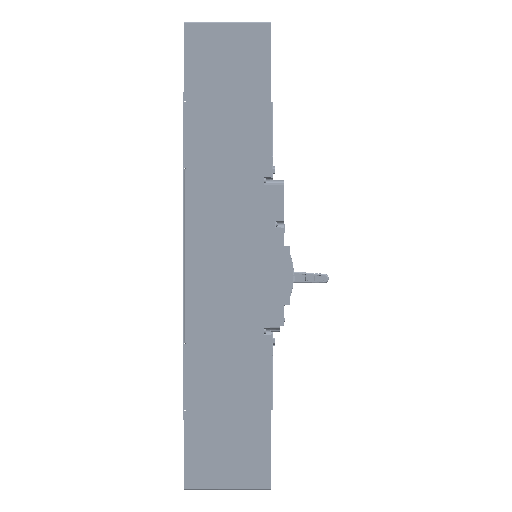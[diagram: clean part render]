
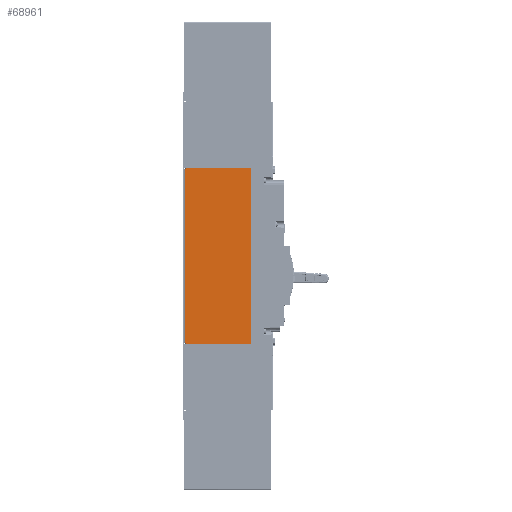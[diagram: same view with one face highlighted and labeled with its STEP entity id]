
A CAD part, left-side view. The second image highlights one B-rep face of the part: STEP entity #68961.
In plain terms, the highlighted planar face has unit normal (-1, 0, 0).
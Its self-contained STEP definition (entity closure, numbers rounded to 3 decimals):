
#2020=CARTESIAN_POINT('',(-70.,86.5,148.3));
#2022=DIRECTION('',(0.,0.,-1.));
#2023=VECTOR('',#2022,224.6);
#2024=CARTESIAN_POINT('',(-70.,86.5,148.3));
#2025=LINE('',#2024,#2023);
#2026=CARTESIAN_POINT('',(-70.,86.5,
-76.3));
#2103=DIRECTION('',(0.,0.,-1.));
#2104=VECTOR('',#2103,1.2);
#2105=CARTESIAN_POINT('',(-70.,85.,149.5));
#2106=LINE('',#2105,#2104);
#2133=DIRECTION('',(0.,1.,0.));
#2134=VECTOR('',#2133,85.);
#2135=CARTESIAN_POINT('',(-70.,0.,149.5));
#2136=LINE('',#2135,#2134);
#3552=DIRECTION('',(0.,-1.,0.));
#3553=VECTOR('',#3552,85.);
#3554=CARTESIAN_POINT('',(-70.,85.,-77.5));
#3555=LINE('',#3554,#3553);
#3579=CARTESIAN_POINT('',(-70.,85.,-76.3));
#3581=DIRECTION('',(0.,0.,-1.));
#3582=VECTOR('',#3581,1.2);
#3583=CARTESIAN_POINT('',(-70.,85.,-76.3));
#3584=LINE('',#3583,#3582);
#20356=DIRECTION('',(0.,-1.,0.));
#20357=VECTOR('',#20356,1.5);
#20358=CARTESIAN_POINT('',(-70.,86.5,
-76.3));
#20359=LINE('',#20358,#20357);
#20364=DIRECTION('',(0.,0.,-1.));
#20365=VECTOR('',#20364,227.);
#20366=CARTESIAN_POINT('',(-70.,0.,149.5));
#20367=LINE('',#20366,#20365);
#20372=DIRECTION('',(0.,1.,0.));
#20373=VECTOR('',#20372,1.5);
#20374=CARTESIAN_POINT('',(-70.,85.,148.3));
#20375=LINE('',#20374,#20373);
#26412=VERTEX_POINT('',#2026);
#26413=VERTEX_POINT('',#2020);
#26423=CARTESIAN_POINT('',(-70.,85.,149.5));
#26424=VERTEX_POINT('',#26423);
#26425=CARTESIAN_POINT('',(-70.,85.,148.3));
#26426=VERTEX_POINT('',#26425);
#26431=CARTESIAN_POINT('',(-70.,0.,149.5));
#26432=VERTEX_POINT('',#26431);
#26537=CARTESIAN_POINT('',(-70.,0.,-77.5));
#26538=VERTEX_POINT('',#26537);
#27113=CARTESIAN_POINT('',(-70.,85.,-77.5));
#27114=VERTEX_POINT('',#27113);
#27117=VERTEX_POINT('',#3579);
#68945=CARTESIAN_POINT('',(-70.,0.,-91.5));
#68946=DIRECTION('',(-1.,0.,0.));
#68947=DIRECTION('',(0.,0.,-1.));
#68948=AXIS2_PLACEMENT_3D('',#68945,#68946,#68947);
#68949=PLANE('',#68948);
#68950=ORIENTED_EDGE('',*,*,#36782,.F.);
#68951=ORIENTED_EDGE('',*,*,#36826,.F.);
#68952=ORIENTED_EDGE('',*,*,#68931,.F.);
#68953=ORIENTED_EDGE('',*,*,#34721,.F.);
#68955=ORIENTED_EDGE('',*,*,#68954,.F.);
#68956=ORIENTED_EDGE('',*,*,#34991,.F.);
#68957=ORIENTED_EDGE('',*,*,#35037,.F.);
#68958=ORIENTED_EDGE('',*,*,#35197,.T.);
#68959=EDGE_LOOP('',(#68950,#68951,#68952,#68953,#68955,#68956,#68957,#68958));
#68960=FACE_OUTER_BOUND('',#68959,.F.);
#68961=ADVANCED_FACE('',(#68960),#68949,.T.);
#34721=EDGE_CURVE('',#26413,#26412,#2025,.T.);
#34991=EDGE_CURVE('',#26424,#26426,#2106,.T.);
#35037=EDGE_CURVE('',#26432,#26424,#2136,.T.);
#35197=EDGE_CURVE('',#26432,#26538,#20367,.T.);
#36782=EDGE_CURVE('',#27114,#26538,#3555,.T.);
#36826=EDGE_CURVE('',#27117,#27114,#3584,.T.);
#68931=EDGE_CURVE('',#26412,#27117,#20359,.T.);
#68954=EDGE_CURVE('',#26426,#26413,#20375,.T.);
